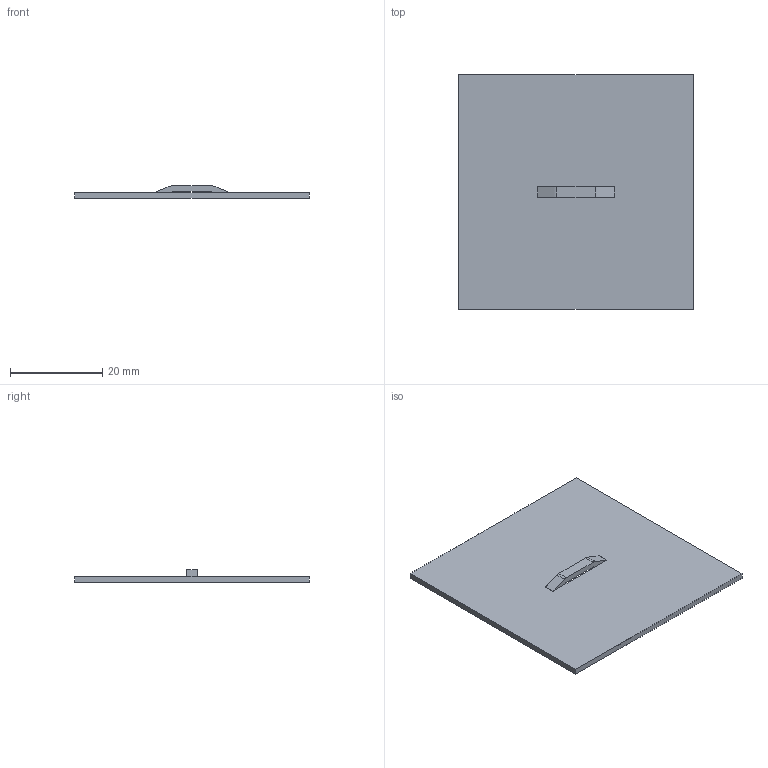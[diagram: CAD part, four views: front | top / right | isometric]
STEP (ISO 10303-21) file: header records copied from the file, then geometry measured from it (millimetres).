
FILE_DESCRIPTION((''),'1');
FILE_NAME('C:/Users/robertnolte/Desktop/WT#379360-10.stp','2012-03-28T00:21:26',(''),(''),'Spatial Interop R21 SP3','Kubotek KeyCreator 2011 V10.5.0 (24766)',' ');
FILE_SCHEMA(('CONFIG_CONTROL_DESIGN'));
Length unit declared in the file: inch
Products named in the file (1): 1
Bounding box: 50.8 x 50.8 x 2.79 mm (x, y, z)
Volume: 3279.1 mm3; surface area: 5488.6 mm2
Topology: 1 solids, 1 shells, 24 faces, 68 edges, 44 vertices
Faces by surface type: plane 16, cylinder 8
Entity records: 828 total; most frequent: CARTESIAN_POINT 137, ORIENTED_EDGE 136, DIRECTION 134, EDGE_CURVE 68, LINE 52, VECTOR 52, VERTEX_POINT 44, AXIS2_PLACEMENT_3D 41
